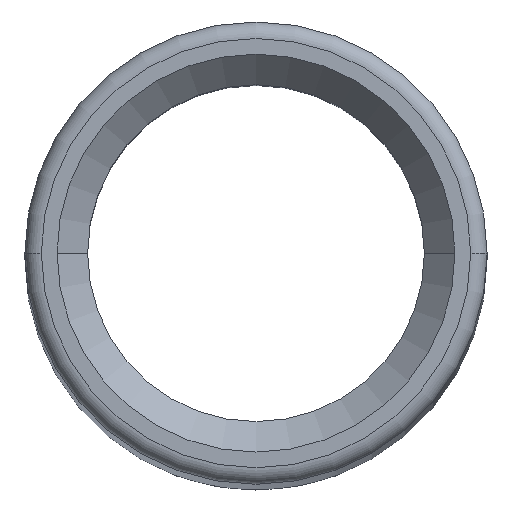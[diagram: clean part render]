
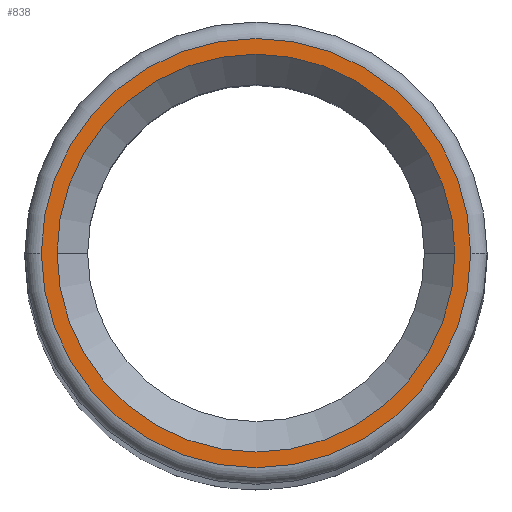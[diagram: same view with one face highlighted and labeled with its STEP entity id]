
A CAD part, top view. The second image highlights one B-rep face of the part: STEP entity #838.
In plain terms, the highlighted planar face has unit normal (0, 0, 1).
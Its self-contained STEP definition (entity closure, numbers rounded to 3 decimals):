
#28 = EDGE_CURVE ( 'NONE', #291, #628, #41, .T. ) ;
#41 = CIRCLE ( 'NONE', #444, 6.025 ) ;
#47 = EDGE_CURVE ( 'NONE', #678, #618, #797, .T. ) ;
#75 = ORIENTED_EDGE ( 'NONE', *, *, #28, .F. ) ;
#76 = EDGE_CURVE ( 'NONE', #628, #291, #380, .T. ) ;
#108 = CARTESIAN_POINT ( 'NONE',  ( 0., 0., 100. ) ) ;
#121 = AXIS2_PLACEMENT_3D ( 'NONE', #790, #262, #404 ) ;
#130 = EDGE_CURVE ( 'NONE', #618, #678, #540, .T. ) ;
#160 = DIRECTION ( 'NONE',  ( 0., 0., 1. ) ) ;
#180 = DIRECTION ( 'NONE',  ( 0., 0., 1. ) ) ;
#204 = ORIENTED_EDGE ( 'NONE', *, *, #130, .T. ) ;
#215 = DIRECTION ( 'NONE',  ( 1., 0., 0. ) ) ;
#224 = CARTESIAN_POINT ( 'NONE',  ( 0., 0., 100. ) ) ;
#249 = CARTESIAN_POINT ( 'NONE',  ( -6.025, 0., 100. ) ) ;
#256 = AXIS2_PLACEMENT_3D ( 'NONE', #313, #180, #596 ) ;
#262 = DIRECTION ( 'NONE',  ( 0., 0., 1. ) ) ;
#291 = VERTEX_POINT ( 'NONE', #573 ) ;
#313 = CARTESIAN_POINT ( 'NONE',  ( 0., 0., 100. ) ) ;
#321 = CARTESIAN_POINT ( 'NONE',  ( -6.5, 0., 100. ) ) ;
#380 = CIRCLE ( 'NONE', #256, 6.025 ) ;
#404 = DIRECTION ( 'NONE',  ( 1., 0., 0. ) ) ;
#417 = ORIENTED_EDGE ( 'NONE', *, *, #47, .T. ) ;
#419 = DIRECTION ( 'NONE',  ( 0., 0., 1. ) ) ;
#428 = PLANE ( 'NONE',  #670 ) ;
#444 = AXIS2_PLACEMENT_3D ( 'NONE', #224, #160, #816 ) ;
#465 = EDGE_LOOP ( 'NONE', ( #75, #660 ) ) ;
#492 = CARTESIAN_POINT ( 'NONE',  ( 0., 0., 100. ) ) ;
#496 = CARTESIAN_POINT ( 'NONE',  ( 6.5, 0., 100. ) ) ;
#520 = EDGE_LOOP ( 'NONE', ( #417, #204 ) ) ;
#534 = FACE_BOUND ( 'NONE', #465, .T. ) ;
#540 = CIRCLE ( 'NONE', #121, 6.5 ) ;
#573 = CARTESIAN_POINT ( 'NONE',  ( 6.025, 0., 100. ) ) ;
#579 = DIRECTION ( 'NONE',  ( 1., 0., 0. ) ) ;
#596 = DIRECTION ( 'NONE',  ( 1., 0., 0. ) ) ;
#618 = VERTEX_POINT ( 'NONE', #321 ) ;
#628 = VERTEX_POINT ( 'NONE', #249 ) ;
#660 = ORIENTED_EDGE ( 'NONE', *, *, #76, .F. ) ;
#670 = AXIS2_PLACEMENT_3D ( 'NONE', #492, #419, #215 ) ;
#678 = VERTEX_POINT ( 'NONE', #496 ) ;
#690 = FACE_OUTER_BOUND ( 'NONE', #520, .T. ) ;
#710 = DIRECTION ( 'NONE',  ( 0., 0., 1. ) ) ;
#790 = CARTESIAN_POINT ( 'NONE',  ( 0., 0., 100. ) ) ;
#797 = CIRCLE ( 'NONE', #801, 6.5 ) ;
#801 = AXIS2_PLACEMENT_3D ( 'NONE', #108, #710, #579 ) ;
#816 = DIRECTION ( 'NONE',  ( 1., 0., 0. ) ) ;
#838 = ADVANCED_FACE ( 'NONE', ( #690, #534 ), #428, .T. ) ;
